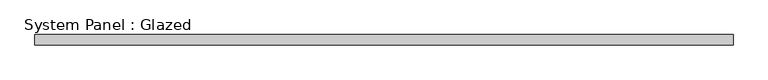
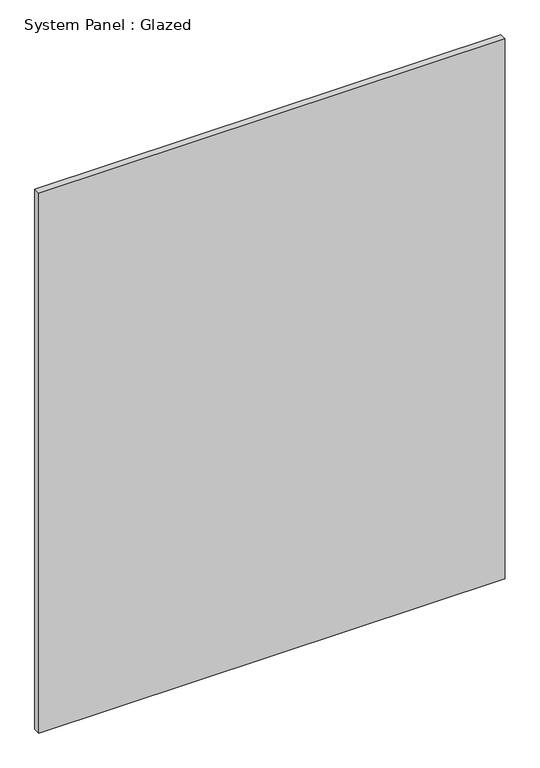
"""IFC4 building model written with IfcOpenShell, lengths in millimetres: plate geometry, System Panel : Glazed."""

from ifc_helpers import new_model, si_unit, origin, origin_with_axes, place, context, project, spatial, polyline, outline, extrude, source, transform, mapped, element, save


def system_panel_glazed_0b0d6c82(model_context):
    return source(origin(), model_context, "Body", "SweptSolid", [
        extrude(outline(polyline([(847.3750001, 19.05), (-847.3750001, 19.05), (-847.3750001, 44.45), (847.3750001, 44.45), (847.3750001, 19.05)])), origin_with_axes(), (0.0, 0.0, 1.0), 2073.0),
    ])


if __name__ == "__main__":
    model = new_model("IFC4")
    model_context = context("Model", 3, world=origin())
    ifc_project = project(units=[si_unit("LENGTHUNIT", "METRE", prefix="MILLI")], contexts=[model_context])
    site = spatial("IfcSite", under=ifc_project)
    building = spatial("IfcBuilding", under=site)
    placement = place(None, origin())
    system_panel_glazed_shape = system_panel_glazed_0b0d6c82(model_context)
    element("IfcPlate", 1, ObjectType="System Panel : Glazed", at=placement, inside=building, context=model_context, shape_type="MappedRepresentation", body=[
        mapped(system_panel_glazed_shape, transform((0.0, 0.0, 0.0), x_axis=(1.0, 0.0, 0.0), y_axis=(0.0, 1.0, 0.0), z_axis=(0.0, 0.0, 1.0))),
    ])
    save(model, "model.ifc")
